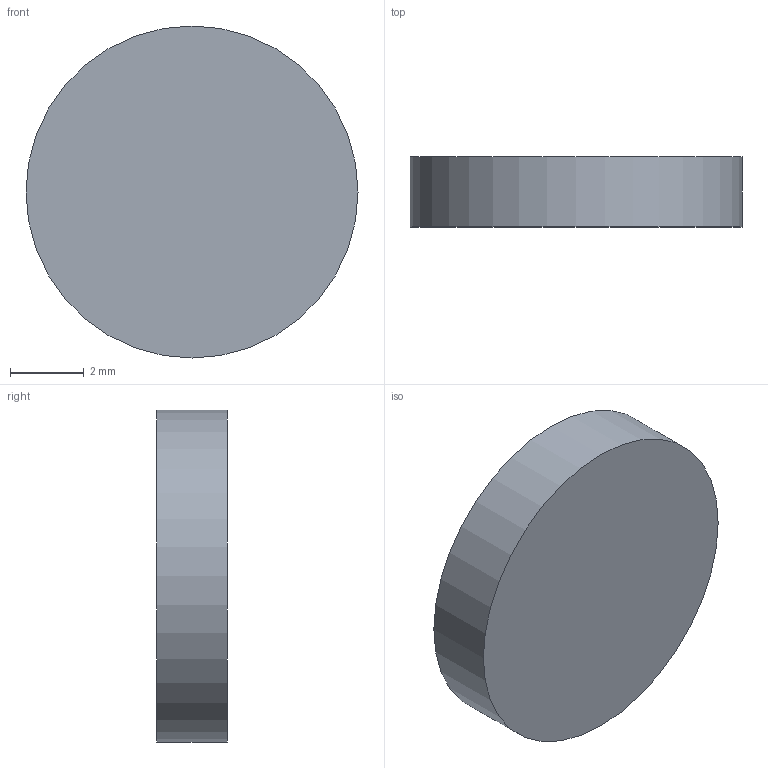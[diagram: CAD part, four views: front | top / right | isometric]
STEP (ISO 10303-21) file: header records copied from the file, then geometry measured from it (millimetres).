
FILE_DESCRIPTION(/* description */ ('STEP AP242','CAx-IF Rec.Pracs.---Representation and Presentation of Product Manufacturing Information (PMI)---4.0---2014-10-13','CAx-IF Rec.Pracs.---3D Tessellated Geometry---0.4---2014-09-14','2;1'),/* implementation_level */ '2;1');
FILE_NAME(/* name */ 'Arm Assembly - Nima 17 40x42x5mm (7)',/* time_stamp */ '2025-06-20T22:34:11Z',/* author */ (''),/* organization */ (''),/* preprocessor_version */ 'ST-DEVELOPER v20',/* originating_system */ 'ONSHAPE BY PTC INC, 1.199',/* authorisation */ ' ');
FILE_SCHEMA (('AP242_MANAGED_MODEL_BASED_3D_ENGINEERING_MIM_LF { 1 0 10303 442 1 1 4 }'));
Length unit declared in the file: metre
Products named in the file (1): Nima 17 40x42x5mm
Bounding box: 9 x 1.9 x 9 mm (x, y, z)
Volume: 120.9 mm3; surface area: 181 mm2
Topology: 1 solids, 1 shells, 3 faces, 3 edges, 2 vertices
Faces by surface type: plane 2, cylinder 1
Full cylindrical faces by diameter (mm): 9 x1
Entity records: 76 total; most frequent: DIRECTION 12, CARTESIAN_POINT 8, AXIS2_PLACEMENT_3D 6, ORIENTED_EDGE 4, EDGE_LOOP 4, FACE_BOUND 4, ADVANCED_FACE 3, EDGE_CURVE 2
